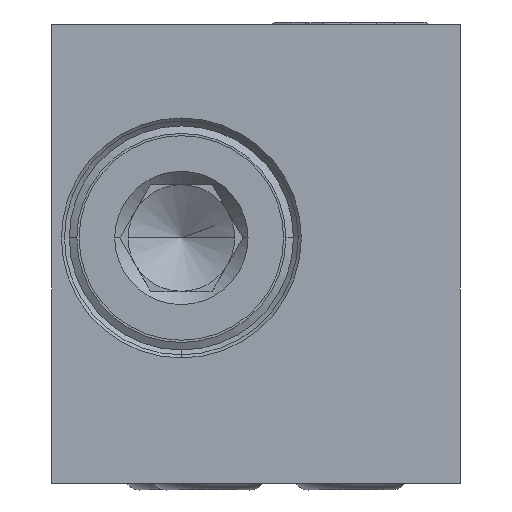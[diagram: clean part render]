
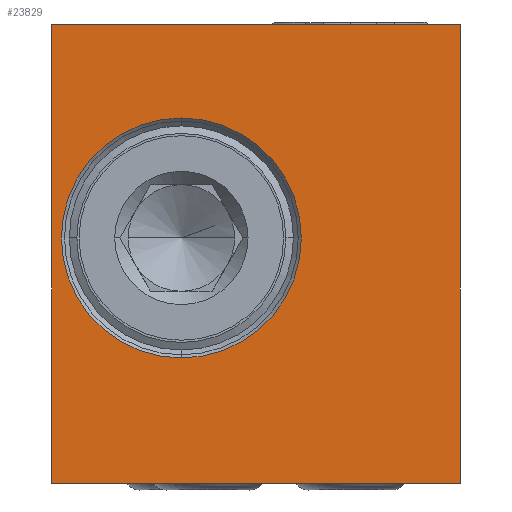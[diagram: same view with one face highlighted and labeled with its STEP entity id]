
A CAD part, left-side view. The second image highlights one B-rep face of the part: STEP entity #23829.
In plain terms, the highlighted planar face has unit normal (-1, 0, 0).
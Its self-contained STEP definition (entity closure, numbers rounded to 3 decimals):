
#4453=DIRECTION('',(0.,0.,1.));
#4454=VECTOR('',#4453,25.8);
#4455=CARTESIAN_POINT('',(-38.,11.5,-12.9));
#4456=LINE('',#4455,#4454);
#4457=DIRECTION('',(0.,-1.,0.));
#4458=VECTOR('',#4457,23.);
#4459=CARTESIAN_POINT('',(-38.,11.5,12.9));
#4460=LINE('',#4459,#4458);
#4461=DIRECTION('',(0.,0.,-1.));
#4462=VECTOR('',#4461,25.8);
#4463=CARTESIAN_POINT('',(-38.,-11.5,12.9));
#4464=LINE('',#4463,#4462);
#4465=DIRECTION('',(0.,1.,0.));
#4466=VECTOR('',#4465,23.);
#4467=CARTESIAN_POINT('',(-38.,-11.5,-12.9));
#4468=LINE('',#4467,#4466);
#4469=CARTESIAN_POINT('',(-38.,4.2,0.9));
#4470=DIRECTION('',(-1.,0.,0.));
#4471=DIRECTION('',(0.,0.,-1.));
#4472=AXIS2_PLACEMENT_3D('',#4469,#4470,#4471);
#4474=CARTESIAN_POINT('',(-38.,4.2,0.9));
#4475=DIRECTION('',(-1.,0.,0.));
#4476=DIRECTION('',(0.,0.,1.));
#4477=AXIS2_PLACEMENT_3D('',#4474,#4475,#4476);
#16255=CARTESIAN_POINT('',(-38.,11.5,12.9));
#16256=VERTEX_POINT('',#16255);
#16257=CARTESIAN_POINT('',(-38.,11.5,-12.9));
#16258=VERTEX_POINT('',#16257);
#16259=CARTESIAN_POINT('',(-38.,-11.5,12.9));
#16260=VERTEX_POINT('',#16259);
#16281=CARTESIAN_POINT('',(-38.,-11.5,-12.9));
#16282=VERTEX_POINT('',#16281);
#16327=CARTESIAN_POINT('',(-38.,4.2,-5.85));
#16328=CARTESIAN_POINT('',(-38.,4.2,7.65));
#16329=VERTEX_POINT('',#16327);
#16330=VERTEX_POINT('',#16328);
#23810=CARTESIAN_POINT('',(-38.,0.,0.));
#23811=DIRECTION('',(-1.,0.,0.));
#23812=DIRECTION('',(0.,-1.,0.));
#23813=AXIS2_PLACEMENT_3D('',#23810,#23811,#23812);
#23814=PLANE('',#23813);
#23815=ORIENTED_EDGE('',*,*,#23803,.T.);
#23816=ORIENTED_EDGE('',*,*,#21333,.T.);
#23818=ORIENTED_EDGE('',*,*,#23817,.T.);
#23820=ORIENTED_EDGE('',*,*,#23819,.T.);
#23821=EDGE_LOOP('',(#23815,#23816,#23818,#23820));
#23822=FACE_OUTER_BOUND('',#23821,.F.);
#23824=ORIENTED_EDGE('',*,*,#23823,.T.);
#23826=ORIENTED_EDGE('',*,*,#23825,.T.);
#23827=EDGE_LOOP('',(#23824,#23826));
#23828=FACE_BOUND('',#23827,.F.);
#23829=ADVANCED_FACE('',(#23822,#23828),#23814,.T.);
#4473=CIRCLE('',#4472,6.75);
#4478=CIRCLE('',#4477,6.75);
#21333=EDGE_CURVE('',#16256,#16260,#4460,.T.);
#23803=EDGE_CURVE('',#16258,#16256,#4456,.T.);
#23817=EDGE_CURVE('',#16260,#16282,#4464,.T.);
#23819=EDGE_CURVE('',#16282,#16258,#4468,.T.);
#23823=EDGE_CURVE('',#16329,#16330,#4473,.T.);
#23825=EDGE_CURVE('',#16330,#16329,#4478,.T.);
